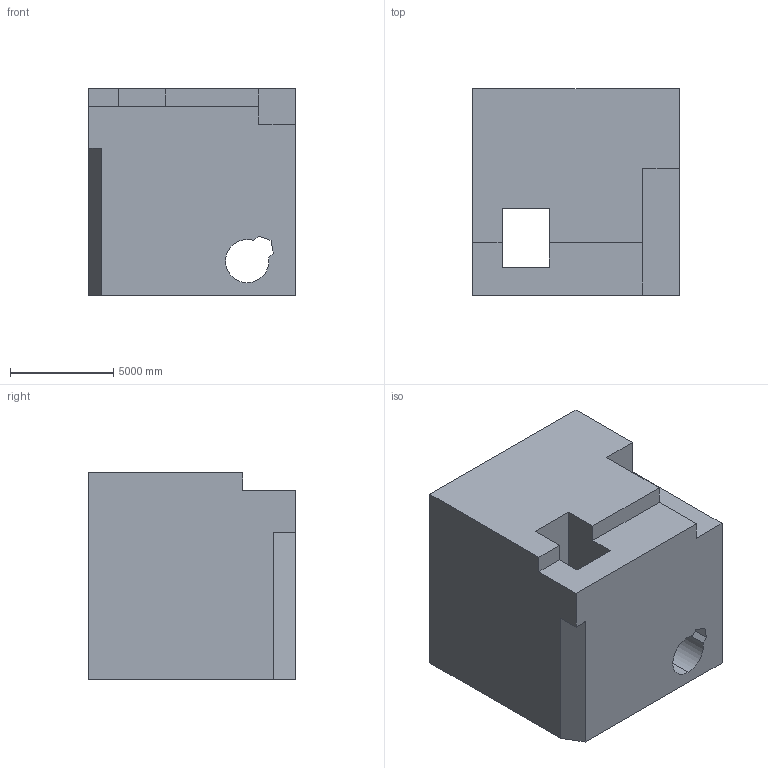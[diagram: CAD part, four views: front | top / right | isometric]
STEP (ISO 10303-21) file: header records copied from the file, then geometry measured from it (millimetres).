
FILE_DESCRIPTION (( 'STEP AP203' ), '1' );
FILE_NAME ('50.STEP', '2022-08-30T15:37:44', ( 'user' ), ( '' ), 'SwSTEP 2.0', 'SolidWorks 2021', '' );
FILE_SCHEMA (( 'CONFIG_CONTROL_DESIGN' ));
Length unit declared in the file: centimetre
Products named in the file (1): 50
Bounding box: 10000 x 10000 x 10000 mm (x, y, z)
Volume: 859968762237.2 mm3; surface area: 741341022.9 mm2
Topology: 1 solids, 1 shells, 25 faces, 72 edges, 48 vertices
Faces by surface type: plane 22, cylinder 3
Entity records: 897 total; most frequent: CARTESIAN_POINT 146, ORIENTED_EDGE 144, DIRECTION 130, EDGE_CURVE 72, LINE 66, VECTOR 66, VERTEX_POINT 48, AXIS2_PLACEMENT_3D 32
